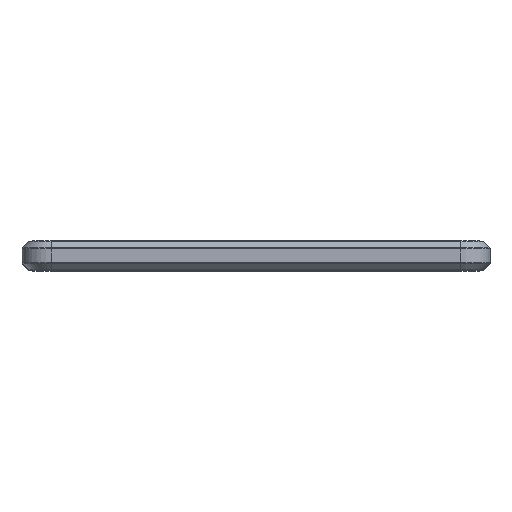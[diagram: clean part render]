
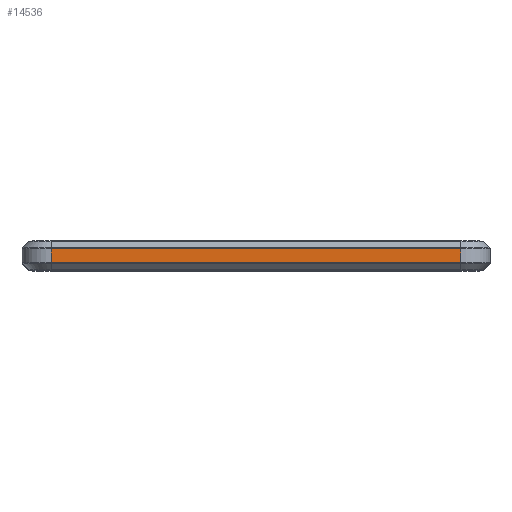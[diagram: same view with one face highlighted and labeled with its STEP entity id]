
A CAD part, top view. The second image highlights one B-rep face of the part: STEP entity #14536.
In plain terms, the highlighted planar face has unit normal (0, 0, 1).
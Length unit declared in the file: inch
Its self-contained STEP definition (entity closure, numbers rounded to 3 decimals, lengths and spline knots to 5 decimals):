
#1594=PLANE('',#16657);
#2775=FACE_OUTER_BOUND('',#4858,.T.);
#4858=EDGE_LOOP('',(#12100,#12101,#12102,#12103));
#6265=LINE('',#25455,#6321);
#6269=LINE('',#25474,#6325);
#6270=LINE('',#25476,#6326);
#6271=LINE('',#25477,#6327);
#6321=VECTOR('',#20665,7.);
#6325=VECTOR('',#20691,0.22929);
#6326=VECTOR('',#20692,7.);
#6327=VECTOR('',#20693,0.22929);
#8705=VERTEX_POINT('',#25449);
#8706=VERTEX_POINT('',#25454);
#8710=VERTEX_POINT('',#25473);
#8711=VERTEX_POINT('',#25475);
#10135=EDGE_CURVE('',#8705,#8706,#6265,.T.);
#10145=EDGE_CURVE('',#8710,#8705,#6269,.T.);
#10146=EDGE_CURVE('',#8711,#8710,#6270,.T.);
#10147=EDGE_CURVE('',#8706,#8711,#6271,.T.);
#12100=ORIENTED_EDGE('',*,*,#10135,.F.);
#12101=ORIENTED_EDGE('',*,*,#10145,.F.);
#12102=ORIENTED_EDGE('',*,*,#10146,.F.);
#12103=ORIENTED_EDGE('',*,*,#10147,.F.);
#14536=ADVANCED_FACE('',(#2775),#1594,.T.);
#16657=AXIS2_PLACEMENT_3D('',#25472,#20689,#20690);
#20665=DIRECTION('',(1.,0.,0.));
#20689=DIRECTION('center_axis',(0.,0.,1.));
#20690=DIRECTION('ref_axis',(1.,0.,0.));
#20691=DIRECTION('',(0.,1.,0.));
#20692=DIRECTION('',(-1.,0.,0.));
#20693=DIRECTION('',(0.,-1.,0.));
#25449=CARTESIAN_POINT('',(-3.5,0.36464,4.));
#25454=CARTESIAN_POINT('',(3.5,0.36464,4.));
#25455=CARTESIAN_POINT('',(-3.,0.36464,4.));
#25472=CARTESIAN_POINT('Origin',(-4.,0.,4.));
#25473=CARTESIAN_POINT('',(-3.5,0.13536,4.));
#25474=CARTESIAN_POINT('',(-3.5,0.,4.));
#25475=CARTESIAN_POINT('',(3.5,0.13536,4.));
#25476=CARTESIAN_POINT('',(-3.,0.13536,4.));
#25477=CARTESIAN_POINT('',(3.5,0.,4.));
